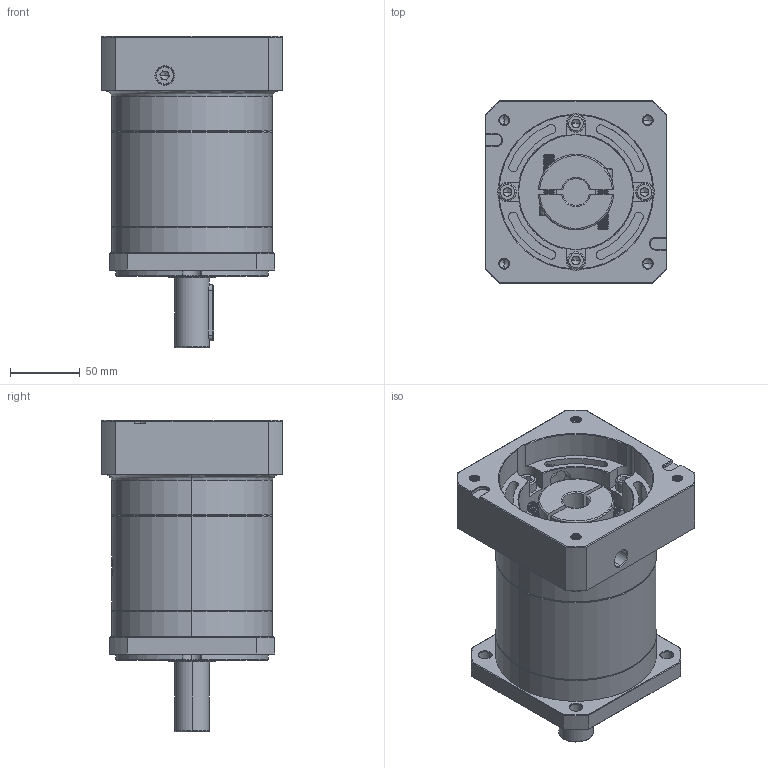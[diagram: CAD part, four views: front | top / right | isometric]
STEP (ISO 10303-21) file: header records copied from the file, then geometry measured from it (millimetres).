
FILE_DESCRIPTION (( 'STEP AP214' ), '1' );
FILE_NAME ('ZF120A-D25-L2-P2-19-110-145-M8.step', '2023-08-27T04:39:45', ( '' ), ( '' ), 'SwSTEP 2.0', 'SolidWorks 2016', '' );
FILE_SCHEMA (( 'AUTOMOTIVE_DESIGN' ));
Length unit declared in the file: millimetre
Products named in the file (1): ZF120A-D25-L2-P2-19-110-145-M8
Bounding box: 130 x 130 x 222.5 mm (x, y, z)
Volume: 1752571.7 mm3; surface area: 192946 mm2
Topology: 6 solids, 6 shells, 2276 faces, 6080 edges, 3903 vertices
Faces by surface type: plane 1060, cylinder 449, bspline 421, cone 327, torus 19
Entity records: 126273 total; most frequent: CARTESIAN_POINT 49916, ORIENTED_EDGE 12100, DIRECTION 8814, EDGE_CURVE 6050, VERTEX_POINT 3903, VECTOR 3172, LINE 3172, AXIS2_PLACEMENT_3D 2821
